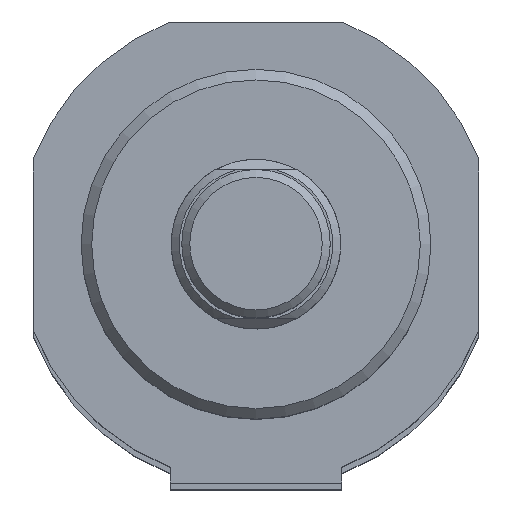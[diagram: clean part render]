
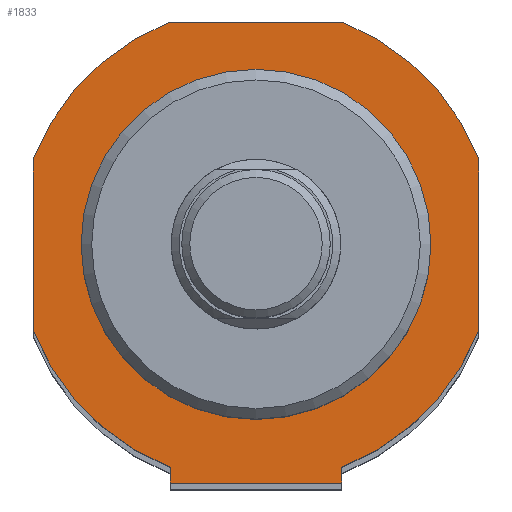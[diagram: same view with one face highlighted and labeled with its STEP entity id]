
A CAD part, top view. The second image highlights one B-rep face of the part: STEP entity #1833.
In plain terms, the highlighted planar face has unit normal (0, 0, 1).
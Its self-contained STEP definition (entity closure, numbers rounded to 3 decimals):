
#898=CARTESIAN_POINT('',(8.078,-22.5,399.));
#899=VERTEX_POINT('',#898);
#900=CARTESIAN_POINT('',(-8.078,-22.5,399.));
#901=VERTEX_POINT('',#900);
#902=CARTESIAN_POINT('',(8.078,-22.5,399.));
#903=DIRECTION('',(-1.0,0.0,0.0));
#904=VECTOR('',#903,16.155);
#905=LINE('',#902,#904);
#906=EDGE_CURVE('',#899,#901,#905,.T.);
#1054=CARTESIAN_POINT('',(-8.078,-21.,399.));
#1055=VERTEX_POINT('',#1054);
#1069=CARTESIAN_POINT('',(-8.078,-21.,399.));
#1070=DIRECTION('',(0.0,-1.0,0.0));
#1071=VECTOR('',#1070,1.5);
#1072=LINE('',#1069,#1071);
#1073=EDGE_CURVE('',#1055,#901,#1072,.T.);
#1085=CARTESIAN_POINT('',(8.078,-21.,399.));
#1086=VERTEX_POINT('',#1085);
#1093=CARTESIAN_POINT('',(8.078,-21.,399.));
#1094=DIRECTION('',(0.0,-1.0,0.0));
#1095=VECTOR('',#1094,1.5);
#1096=LINE('',#1093,#1095);
#1097=EDGE_CURVE('',#1086,#899,#1096,.T.);
#1561=CARTESIAN_POINT('',(16.5,0.,399.));
#1562=VERTEX_POINT('',#1561);
#1563=CARTESIAN_POINT('',(0.,0.,399.));
#1564=DIRECTION('',(0.0,0.0,-1.0));
#1565=DIRECTION('',(-1.0,0.0,0.0));
#1566=AXIS2_PLACEMENT_3D('',#1563,#1564,#1565);
#1567=CIRCLE('',#1566,16.5);
#1568=EDGE_CURVE('',#1562,#1562,#1567,.T.);
#1653=CARTESIAN_POINT('',(-8.078,21.,399.));
#1654=VERTEX_POINT('',#1653);
#1655=CARTESIAN_POINT('',(8.078,21.,399.));
#1656=VERTEX_POINT('',#1655);
#1657=CARTESIAN_POINT('',(-8.078,21.,399.));
#1658=DIRECTION('',(1.0,0.0,0.0));
#1659=VECTOR('',#1658,16.155);
#1660=LINE('',#1657,#1659);
#1661=EDGE_CURVE('',#1654,#1656,#1660,.T.);
#1684=CARTESIAN_POINT('',(21.,8.078,399.));
#1685=VERTEX_POINT('',#1684);
#1686=CARTESIAN_POINT('',(0.,0.,399.0));
#1687=DIRECTION('',(0.,0.,-1.0));
#1688=DIRECTION('',(0.933,0.359,0.));
#1689=AXIS2_PLACEMENT_3D('',#1686,#1687,#1688);
#1690=CIRCLE('',#1689,22.5);
#1691=EDGE_CURVE('',#1656,#1685,#1690,.T.);
#1709=CARTESIAN_POINT('',(21.,-8.078,399.));
#1710=VERTEX_POINT('',#1709);
#1711=CARTESIAN_POINT('',(21.,8.078,399.));
#1712=DIRECTION('',(0.0,-1.0,0.0));
#1713=VECTOR('',#1712,16.155);
#1714=LINE('',#1711,#1713);
#1715=EDGE_CURVE('',#1685,#1710,#1714,.T.);
#1733=CARTESIAN_POINT('',(0.,0.,399.0));
#1734=DIRECTION('',(0.,0.,-1.));
#1735=DIRECTION('',(0.359,-0.933,0.));
#1736=AXIS2_PLACEMENT_3D('',#1733,#1734,#1735);
#1737=CIRCLE('',#1736,22.5);
#1738=EDGE_CURVE('',#1710,#1086,#1737,.T.);
#1751=CARTESIAN_POINT('',(-21.,-8.078,399.));
#1752=VERTEX_POINT('',#1751);
#1753=CARTESIAN_POINT('',(0.,0.,399.0));
#1754=DIRECTION('',(0.,0.,-1.0));
#1755=DIRECTION('',(-0.933,-0.359,0.));
#1756=AXIS2_PLACEMENT_3D('',#1753,#1754,#1755);
#1757=CIRCLE('',#1756,22.5);
#1758=EDGE_CURVE('',#1055,#1752,#1757,.T.);
#1776=CARTESIAN_POINT('',(-21.,8.078,399.));
#1777=VERTEX_POINT('',#1776);
#1778=CARTESIAN_POINT('',(-21.,-8.078,399.));
#1779=DIRECTION('',(0.0,1.0,0.0));
#1780=VECTOR('',#1779,16.155);
#1781=LINE('',#1778,#1780);
#1782=EDGE_CURVE('',#1752,#1777,#1781,.T.);
#1800=CARTESIAN_POINT('',(0.,0.,399.0));
#1801=DIRECTION('',(0.,0.,-1.));
#1802=DIRECTION('',(-0.359,0.933,0.));
#1803=AXIS2_PLACEMENT_3D('',#1800,#1801,#1802);
#1804=CIRCLE('',#1803,22.5);
#1805=EDGE_CURVE('',#1777,#1654,#1804,.T.);
#1813=CARTESIAN_POINT('',(0.,0.0,399.));
#1814=DIRECTION('',(0.0,0.0,1.0));
#1815=DIRECTION('',(1.0,0.0,0.0));
#1816=AXIS2_PLACEMENT_3D('',#1813,#1814,#1815);
#1817=PLANE('',#1816);
#1818=ORIENTED_EDGE('',*,*,#1661,.F.);
#1819=ORIENTED_EDGE('',*,*,#1805,.F.);
#1820=ORIENTED_EDGE('',*,*,#1782,.F.);
#1821=ORIENTED_EDGE('',*,*,#1758,.F.);
#1822=ORIENTED_EDGE('',*,*,#1073,.T.);
#1823=ORIENTED_EDGE('',*,*,#906,.F.);
#1824=ORIENTED_EDGE('',*,*,#1097,.F.);
#1825=ORIENTED_EDGE('',*,*,#1738,.F.);
#1826=ORIENTED_EDGE('',*,*,#1715,.F.);
#1827=ORIENTED_EDGE('',*,*,#1691,.F.);
#1828=EDGE_LOOP('',(#1818,#1819,#1820,#1821,#1822,#1823,#1824,#1825,#1826,#1827));
#1829=FACE_OUTER_BOUND('',#1828,.T.);
#1830=ORIENTED_EDGE('',*,*,#1568,.T.);
#1831=EDGE_LOOP('',(#1830));
#1832=FACE_BOUND('',#1831,.T.);
#1833=ADVANCED_FACE('',(#1829,#1832),#1817,.T.);
